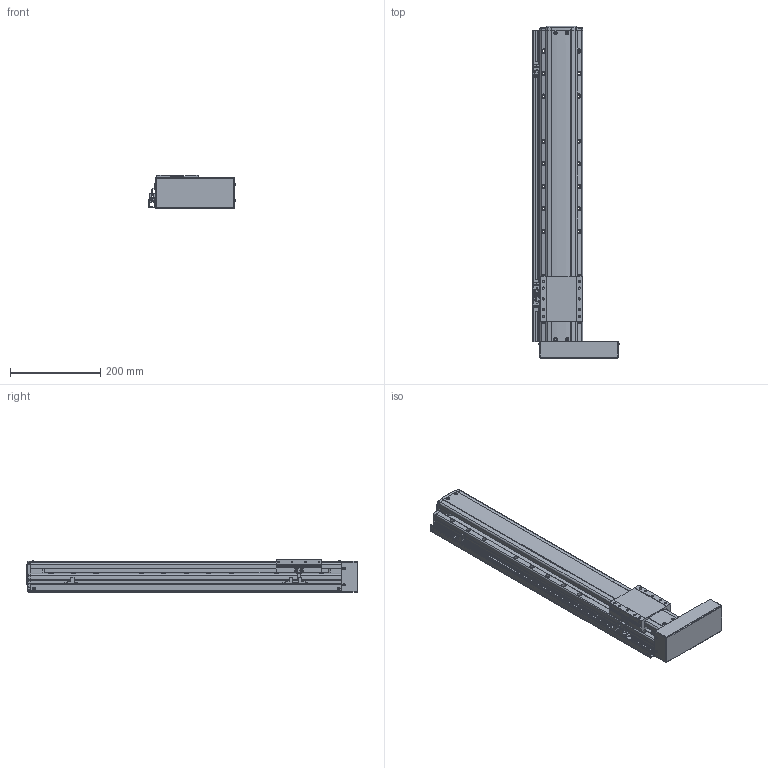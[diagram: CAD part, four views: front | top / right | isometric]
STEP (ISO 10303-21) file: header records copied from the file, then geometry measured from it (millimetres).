
FILE_DESCRIPTION(('STEP AP214'),'1');
FILE_NAME('Z:/Web/3D/PSA95/STP/PSA95-500 (3D)/PSA95ㅁㅁ-500PR+3SL.stp','2014-07-03T00:29:46',(' '),(' '),'Spatial InterOp 3D',' ',' ');
FILE_SCHEMA(('automotive_design'));
Length unit declared in the file: millimetre
Products named in the file (41): BASE; RRCV; 스크루 : Round - M4.0 x 10.0; 너트 : Square - M10.0 x 220.7419; RR1500; FRCV-090; 스크루 : Round - M4.0 x 6.0; SLBL-PA90; MOTOR PLATE COVER; 스크루 : Round - M3.0 x 6.0; EE-SX674; SBK-SX674-352; M3.0 x 6.0; SRL-16x17-380L; SGD-PA95; 스크루 : Round - M3.0 x 8.0
Bounding box: 192.06 x 736.5 x 74 mm (x, y, z)
Volume: 4283834.3 mm3; surface area: 524346.4 mm2
Topology: 41 solids, 41 shells, 2420 faces, 6454 edges, 4142 vertices
Faces by surface type: plane 1408, cylinder 691, cone 221, sphere 62, bspline 24, torus 14
Entity records: 97116 total; most frequent: CARTESIAN_POINT 16116, DIRECTION 12840, ORIENTED_EDGE 12636, EDGE_CURVE 6318, LINE 4320, VECTOR 4320, AXIS2_PLACEMENT_3D 4260, VERTEX_POINT 4142
